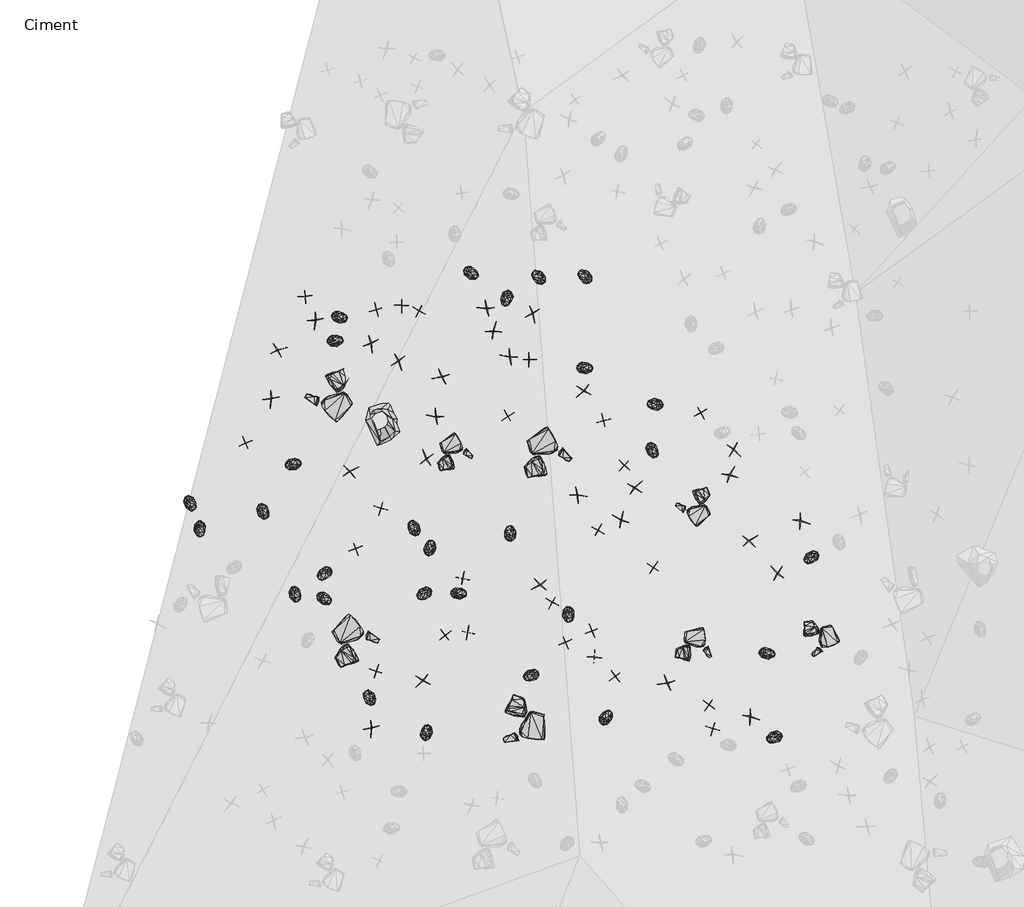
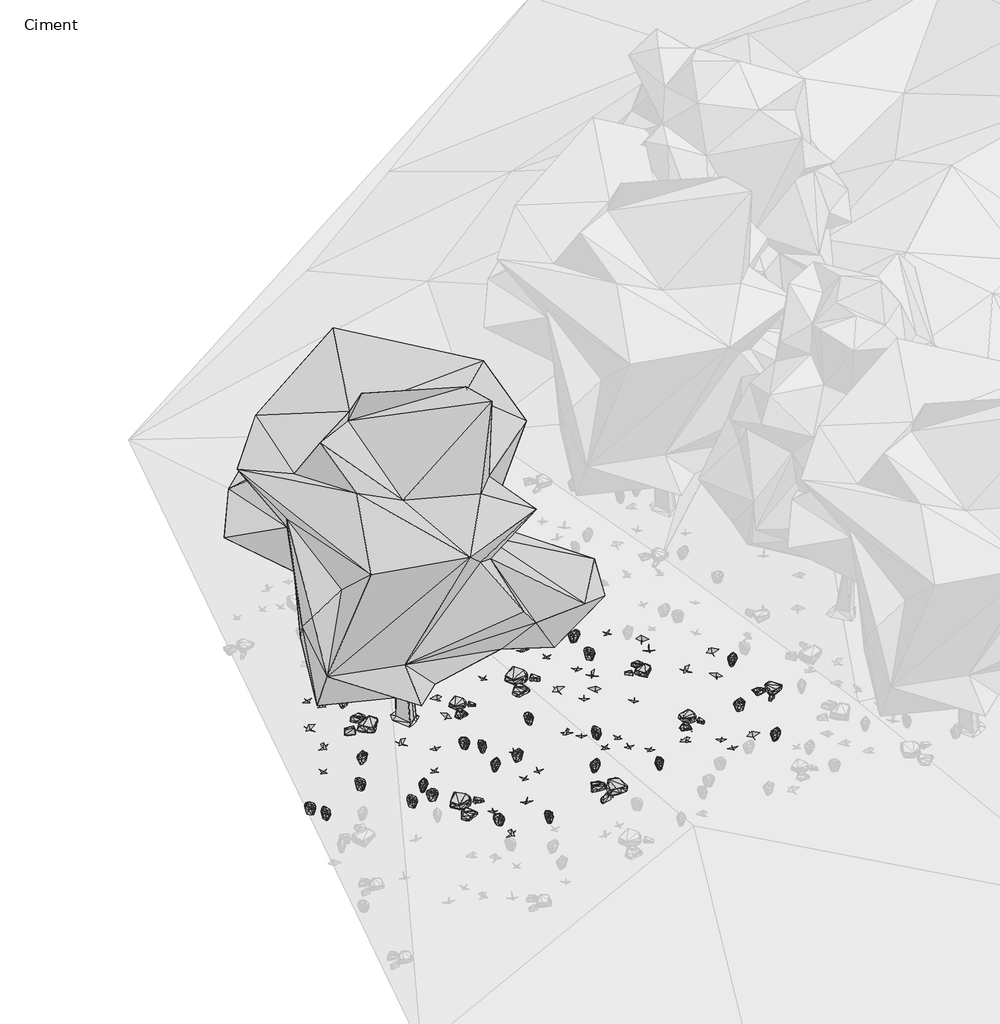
# One storey, part 7 of 30: 90 geographic elements.
"""IFC4 building model written with IfcOpenShell, lengths in millimetres."""

from ifc_helpers import new_model, si_unit, origin, place, context, project, spatial, transform, mapped, element, save
from components import enscape_assetdefinition_bush_025_fern_enscape_5718bf32, enscape_assetdefinition_bush_054_plant_09_version_2_enscape_7b546a12, enscape_assetdefinition_bush_062_plant_09_version_3_enscape_ccf8c8eb, enscape_assetdefinition_deciduous_tree_029_elm_enscape_e4c49baf, enscape_assetdefinition_stone_013_group_enscape_516da325, enscape_assetdefinition_stone_013_group_enscape_db9b3e91

model = new_model("IFC4")

# Units and contexts
model_context = context("Model", 3, world=origin())
ifc_project = project(units=[si_unit("LENGTHUNIT", "METRE", prefix="MILLI")], contexts=[model_context])

# Site, building, storey
site = spatial("IfcSite", under=ifc_project)
building = spatial("IfcBuilding", under=site)
storey = spatial("IfcBuildingStorey", under=building, Name="Ciment", Elevation=-1500.0)

# Geographic elements
placement = place(None, origin())
enscape_assetdefinition_bush_025_fern_enscape_shape = enscape_assetdefinition_bush_025_fern_enscape_5718bf32(model_context)
element("IfcGeographicElement", 1, ObjectType="Enscape AssetDefinition - Bush 025 Fern : Enscape AssetDefinition - Bush 025 Fern", at=placement, inside=storey, context=model_context, shape_type="MappedRepresentation", body=[
    mapped(enscape_assetdefinition_bush_025_fern_enscape_shape, transform((-23727.4951935, -7256.6299438, -2361.6156578), x_axis=(-0.5676788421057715, 0.8232501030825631, 0.0), y_axis=(-0.8232501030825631, -0.5676788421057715, 0.0), z_axis=(0.0, 0.0, 1.0))),
])
element("IfcGeographicElement", 2, ObjectType="Enscape AssetDefinition - Bush 025 Fern : Enscape AssetDefinition - Bush 025 Fern", at=placement, inside=storey, context=model_context, shape_type="MappedRepresentation", body=[
    mapped(enscape_assetdefinition_bush_025_fern_enscape_shape, transform((-25539.440155, -4105.9131622, -2671.3728905), x_axis=(0.5081683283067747, -0.8612577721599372, 0.0), y_axis=(0.8612577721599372, 0.5081683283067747, 0.0), z_axis=(0.0, 0.0, 1.0))),
])
element("IfcGeographicElement", 3, ObjectType="Enscape AssetDefinition - Bush 025 Fern : Enscape AssetDefinition - Bush 025 Fern", at=placement, inside=storey, context=model_context, shape_type="MappedRepresentation", body=[
    mapped(enscape_assetdefinition_bush_025_fern_enscape_shape, transform((-22751.8234253, -7855.2341461, -2261.7893219), x_axis=(0.12336331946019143, 0.9923615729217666, 0.0), y_axis=(-0.9923615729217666, 0.12336331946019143, 0.0), z_axis=(0.0, 0.0, 1.0))),
])
element("IfcGeographicElement", 4, ObjectType="Enscape AssetDefinition - Bush 025 Fern : Enscape AssetDefinition - Bush 025 Fern", at=placement, inside=storey, context=model_context, shape_type="MappedRepresentation", body=[
    mapped(enscape_assetdefinition_bush_025_fern_enscape_shape, transform((-22201.9767761, -5496.3622093, -2183.6323738), x_axis=(0.9965483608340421, 0.08301424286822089, 0.0), y_axis=(-0.08301424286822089, 0.9965483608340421, 0.0), z_axis=(0.0, 0.0, 1.0))),
])
element("IfcGeographicElement", 5, ObjectType="Enscape AssetDefinition - Bush 025 Fern : Enscape AssetDefinition - Bush 025 Fern", at=placement, inside=storey, context=model_context, shape_type="MappedRepresentation", body=[
    mapped(enscape_assetdefinition_bush_025_fern_enscape_shape, transform((-24301.6529083, -1194.8299408, -2549.8013496), x_axis=(0.9784877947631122, 0.20630471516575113, 0.0), y_axis=(-0.20630471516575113, 0.9784877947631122, 0.0), z_axis=(0.0, 0.0, 1.0))),
])
element("IfcGeographicElement", 6, ObjectType="Enscape AssetDefinition - Bush 025 Fern : Enscape AssetDefinition - Bush 025 Fern", at=placement, inside=storey, context=model_context, shape_type="MappedRepresentation", body=[
    mapped(enscape_assetdefinition_bush_025_fern_enscape_shape, transform((-21993.9994812, -45.6085205, -2117.0444489), x_axis=(0.8876537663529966, -0.4605114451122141, 0.0), y_axis=(0.4605114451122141, 0.8876537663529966, 0.0), z_axis=(0.0, 0.0, 1.0))),
])
element("IfcGeographicElement", 7, ObjectType="Enscape AssetDefinition - Bush 025 Fern : Enscape AssetDefinition - Bush 025 Fern", at=placement, inside=storey, context=model_context, shape_type="MappedRepresentation", body=[
    mapped(enscape_assetdefinition_bush_025_fern_enscape_shape, transform((-26618.7229156, -4401.2951851, -2924.323082), x_axis=(0.1692869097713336, -0.9855668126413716, 0.0), y_axis=(0.9855668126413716, 0.1692869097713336, 0.0), z_axis=(0.0, 0.0, 1.0))),
])
element("IfcGeographicElement", 8, ObjectType="Enscape AssetDefinition - Bush 025 Fern : Enscape AssetDefinition - Bush 025 Fern", at=placement, inside=storey, context=model_context, shape_type="MappedRepresentation", body=[
    mapped(enscape_assetdefinition_bush_025_fern_enscape_shape, transform((-20852.5466919, -97.984314, -1999.9998808), x_axis=(-0.8039432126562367, 0.5947060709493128, 0.0), y_axis=(-0.5947060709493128, -0.8039432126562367, 0.0), z_axis=(0.0, 0.0, 1.0))),
])
element("IfcGeographicElement", 9, ObjectType="Enscape AssetDefinition - Bush 025 Fern : Enscape AssetDefinition - Bush 025 Fern", at=placement, inside=storey, context=model_context, shape_type="MappedRepresentation", body=[
    mapped(enscape_assetdefinition_bush_025_fern_enscape_shape, transform((-24494.6460724, -5587.1810913, -2430.3712845), x_axis=(0.921809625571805, -0.387642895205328, 0.0), y_axis=(0.387642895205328, 0.921809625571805, 0.0), z_axis=(0.0, 0.0, 1.0))),
])
element("IfcGeographicElement", 10, ObjectType="Enscape AssetDefinition - Bush 025 Fern : Enscape AssetDefinition - Bush 025 Fern", at=placement, inside=storey, context=model_context, shape_type="MappedRepresentation", body=[
    mapped(enscape_assetdefinition_bush_025_fern_enscape_shape, transform((-21331.0127258, -4463.5009766, -2081.7899704), x_axis=(-0.1506289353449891, 0.9885903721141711, 0.0), y_axis=(-0.9885903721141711, -0.1506289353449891, 0.0), z_axis=(0.0, 0.0, 1.0))),
])
element("IfcGeographicElement", 11, ObjectType="Enscape AssetDefinition - Bush 025 Fern : Enscape AssetDefinition - Bush 025 Fern", at=placement, inside=storey, context=model_context, shape_type="MappedRepresentation", body=[
    mapped(enscape_assetdefinition_bush_025_fern_enscape_shape, transform((-20985.4869843, -6884.1018677, -2064.3763542), x_axis=(-0.90095990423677, -0.43390235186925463, 0.0), y_axis=(0.43390235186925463, -0.90095990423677, 0.0), z_axis=(0.0, 0.0, 1.0))),
])
element("IfcGeographicElement", 12, ObjectType="Enscape AssetDefinition - Bush 025 Fern : Enscape AssetDefinition - Bush 025 Fern", at=placement, inside=storey, context=model_context, shape_type="MappedRepresentation", body=[
    mapped(enscape_assetdefinition_bush_025_fern_enscape_shape, transform((-22693.0561066, -4710.7243538, -2229.9437523), x_axis=(0.17815446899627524, 0.9840025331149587, 0.0), y_axis=(-0.9840025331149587, 0.17815446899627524, 0.0), z_axis=(0.0, 0.0, 1.0))),
])
element("IfcGeographicElement", 13, ObjectType="Enscape AssetDefinition - Bush 025 Fern : Enscape AssetDefinition - Bush 025 Fern", at=placement, inside=storey, context=model_context, shape_type="MappedRepresentation", body=[
    mapped(enscape_assetdefinition_bush_025_fern_enscape_shape, transform((-24993.7591553, -5515.2416229, -2483.341217), x_axis=(0.4139063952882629, -0.9103194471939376, 0.0), y_axis=(0.9103194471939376, 0.4139063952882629, 0.0), z_axis=(0.0, 0.0, 1.0))),
])
element("IfcGeographicElement", 14, ObjectType="Enscape AssetDefinition - Bush 025 Fern : Enscape AssetDefinition - Bush 025 Fern", at=placement, inside=storey, context=model_context, shape_type="MappedRepresentation", body=[
    mapped(enscape_assetdefinition_bush_025_fern_enscape_shape, transform((-24230.1330566, -794.8588729, -2557.9595566), x_axis=(0.9918220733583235, -0.1276282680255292, 0.0), y_axis=(0.1276282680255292, 0.9918220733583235, 0.0), z_axis=(0.0, 0.0, 1.0))),
])
element("IfcGeographicElement", 15, ObjectType="Enscape AssetDefinition - Bush 025 Fern : Enscape AssetDefinition - Bush 025 Fern", at=placement, inside=storey, context=model_context, shape_type="MappedRepresentation", body=[
    mapped(enscape_assetdefinition_bush_025_fern_enscape_shape, transform((-22803.106308, -5495.7466125, -2248.1279373), x_axis=(-0.7612268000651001, -0.6484857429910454, 0.0), y_axis=(0.6484857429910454, -0.7612268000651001, 0.0), z_axis=(0.0, 0.0, 1.0))),
])
element("IfcGeographicElement", 16, ObjectType="Enscape AssetDefinition - Bush 025 Fern : Enscape AssetDefinition - Bush 025 Fern", at=placement, inside=storey, context=model_context, shape_type="MappedRepresentation", body=[
    mapped(enscape_assetdefinition_bush_025_fern_enscape_shape, transform((-20057.4150085, -1658.0562592, -1999.9998808), x_axis=(0.9968236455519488, 0.07964056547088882, 0.0), y_axis=(-0.07964056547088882, 0.9968236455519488, 0.0), z_axis=(0.0, 0.0, 1.0))),
])
element("IfcGeographicElement", 17, ObjectType="Enscape AssetDefinition - Bush 025 Fern : Enscape AssetDefinition - Bush 025 Fern", at=placement, inside=storey, context=model_context, shape_type="MappedRepresentation", body=[
    mapped(enscape_assetdefinition_bush_025_fern_enscape_shape, transform((-26777.5974274, -3967.2336578, -2992.8431511), x_axis=(0.5974345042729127, -0.8019177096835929, 0.0), y_axis=(0.8019177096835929, 0.5974345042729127, 0.0), z_axis=(0.0, 0.0, 1.0))),
])
element("IfcGeographicElement", 18, ObjectType="Enscape AssetDefinition - Bush 025 Fern : Enscape AssetDefinition - Bush 025 Fern", at=placement, inside=storey, context=model_context, shape_type="MappedRepresentation", body=[
    mapped(enscape_assetdefinition_bush_025_fern_enscape_shape, transform((-19695.4116821, -7599.7009277, -1999.9998808), x_axis=(0.46748191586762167, 0.8840026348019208, 0.0), y_axis=(-0.8840026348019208, 0.46748191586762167, 0.0), z_axis=(0.0, 0.0, 1.0))),
])
element("IfcGeographicElement", 19, ObjectType="Enscape AssetDefinition - Bush 025 Fern : Enscape AssetDefinition - Bush 025 Fern", at=placement, inside=storey, context=model_context, shape_type="MappedRepresentation", body=[
    mapped(enscape_assetdefinition_bush_025_fern_enscape_shape, transform((-21397.8786469, -472.7897346, -2056.5516949), x_axis=(-0.16721915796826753, -0.9859197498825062, 0.0), y_axis=(0.9859197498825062, -0.16721915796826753, 0.0), z_axis=(0.0, 0.0, 1.0))),
])
element("IfcGeographicElement", 20, ObjectType="Enscape AssetDefinition - Bush 025 Fern : Enscape AssetDefinition - Bush 025 Fern", at=placement, inside=storey, context=model_context, shape_type="MappedRepresentation", body=[
    mapped(enscape_assetdefinition_bush_025_fern_enscape_shape, transform((-16956.2988281, -6516.5977478, -2000.0), x_axis=(0.9999566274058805, 0.009313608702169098, 0.0), y_axis=(-0.009313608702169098, 0.9999566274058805, 0.0), z_axis=(0.0, 0.0, 1.0))),
])
element("IfcGeographicElement", 21, ObjectType="Enscape AssetDefinition - Bush 025 Fern : Enscape AssetDefinition - Bush 025 Fern", at=placement, inside=storey, context=model_context, shape_type="MappedRepresentation", body=[
    mapped(enscape_assetdefinition_bush_025_fern_enscape_shape, transform((-22967.8230286, -4371.4752197, -2256.6702366), x_axis=(-0.525916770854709, 0.8505360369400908, 0.0), y_axis=(-0.8505360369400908, -0.525916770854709, 0.0), z_axis=(0.0, 0.0, 1.0))),
])
element("IfcGeographicElement", 22, ObjectType="Enscape AssetDefinition - Bush 025 Fern : Enscape AssetDefinition - Bush 025 Fern", at=placement, inside=storey, context=model_context, shape_type="MappedRepresentation", body=[
    mapped(enscape_assetdefinition_bush_025_fern_enscape_shape, transform((-18873.3158112, -2269.2584991, -1999.9998808), x_axis=(-0.9999862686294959, -0.005240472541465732, 0.0), y_axis=(0.005240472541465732, -0.9999862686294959, 0.0), z_axis=(0.0, 0.0, 1.0))),
])
element("IfcGeographicElement", 23, ObjectType="Enscape AssetDefinition - Bush 025 Fern : Enscape AssetDefinition - Bush 025 Fern", at=placement, inside=storey, context=model_context, shape_type="MappedRepresentation", body=[
    mapped(enscape_assetdefinition_bush_025_fern_enscape_shape, transform((-18914.6385193, -3063.6746883, -1999.9998808), x_axis=(0.5406129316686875, -0.8412714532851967, 0.0), y_axis=(0.8412714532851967, 0.5406129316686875, 0.0), z_axis=(0.0, 0.0, 1.0))),
])
element("IfcGeographicElement", 24, ObjectType="Enscape AssetDefinition - Bush 025 Fern : Enscape AssetDefinition - Bush 025 Fern", at=placement, inside=storey, context=model_context, shape_type="MappedRepresentation", body=[
    mapped(enscape_assetdefinition_bush_025_fern_enscape_shape, transform((-16848.3390808, -7939.5976067, -2000.0), x_axis=(-0.8730230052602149, -0.4876790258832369, 0.0), y_axis=(0.4876790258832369, -0.8730230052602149, 0.0), z_axis=(0.0, 0.0, 1.0))),
])
element("IfcGeographicElement", 25, ObjectType="Enscape AssetDefinition - Bush 025 Fern : Enscape AssetDefinition - Bush 025 Fern", at=placement, inside=storey, context=model_context, shape_type="MappedRepresentation", body=[
    mapped(enscape_assetdefinition_bush_025_fern_enscape_shape, transform((-24500.4806519, -5155.7617188, -2427.4926186), x_axis=(-0.6645421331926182, -0.7472507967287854, 0.0), y_axis=(0.7472507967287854, -0.6645421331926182, 0.0), z_axis=(0.0, 0.0, 1.0))),
])
element("IfcGeographicElement", 26, ObjectType="Enscape AssetDefinition - Bush 025 Fern : Enscape AssetDefinition - Bush 025 Fern", at=placement, inside=storey, context=model_context, shape_type="MappedRepresentation", body=[
    mapped(enscape_assetdefinition_bush_025_fern_enscape_shape, transform((-20064.5179749, -89.2429352, -1999.9998808), x_axis=(-0.8169794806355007, 0.576666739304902, 0.0), y_axis=(-0.576666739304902, -0.8169794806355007, 0.0), z_axis=(0.0, 0.0, 1.0))),
])
element("IfcGeographicElement", 27, ObjectType="Enscape AssetDefinition - Bush 025 Fern : Enscape AssetDefinition - Bush 025 Fern", at=placement, inside=storey, context=model_context, shape_type="MappedRepresentation", body=[
    mapped(enscape_assetdefinition_bush_025_fern_enscape_shape, transform((-25015.3369904, -3294.5594788, -2592.2985077), x_axis=(0.931424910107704, 0.36393356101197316, 0.0), y_axis=(-0.36393356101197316, 0.931424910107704, 0.0), z_axis=(0.0, 0.0, 1.0))),
])
element("IfcGeographicElement", 28, ObjectType="Enscape AssetDefinition - Bush 025 Fern : Enscape AssetDefinition - Bush 025 Fern", at=placement, inside=storey, context=model_context, shape_type="MappedRepresentation", body=[
    mapped(enscape_assetdefinition_bush_025_fern_enscape_shape, transform((-20345.4418182, -5856.7733765, -1999.9998808), x_axis=(0.1793233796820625, -0.9837901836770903, 0.0), y_axis=(0.9837901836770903, 0.1793233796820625, 0.0), z_axis=(0.0, 0.0, 1.0))),
])
element("IfcGeographicElement", 29, ObjectType="Enscape AssetDefinition - Bush 025 Fern : Enscape AssetDefinition - Bush 025 Fern", at=placement, inside=storey, context=model_context, shape_type="MappedRepresentation", body=[
    mapped(enscape_assetdefinition_bush_025_fern_enscape_shape, transform((-16217.8859711, -4879.6482086, -2000.0), x_axis=(-0.7441916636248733, -0.6679661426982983, 0.0), y_axis=(0.6679661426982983, -0.7441916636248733, 0.0), z_axis=(0.0, 0.0, 1.0))),
])
enscape_assetdefinition_bush_054_plant_09_version_2_enscape_shape = enscape_assetdefinition_bush_054_plant_09_version_2_enscape_7b546a12(model_context)
element("IfcGeographicElement", 30, ObjectType="Enscape AssetDefinition - Bush 054 Plant 09, Version 2 : Enscape AssetDefinition - Bush 054 Plant 09, Version 2", at=placement, inside=storey, context=model_context, shape_type="MappedRepresentation", body=[
    mapped(enscape_assetdefinition_bush_054_plant_09_version_2_enscape_shape, transform((-19942.5029755, -6135.2190971, -1999.9998808), x_axis=(0.9075554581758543, 0.41993224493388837, 0.0), y_axis=(-0.41993224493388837, 0.9075554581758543, 0.0), z_axis=(0.0, 0.0, 1.0))),
])
element("IfcGeographicElement", 31, ObjectType="Enscape AssetDefinition - Bush 054 Plant 09, Version 2 : Enscape AssetDefinition - Bush 054 Plant 09, Version 2", at=placement, inside=storey, context=model_context, shape_type="MappedRepresentation", body=[
    mapped(enscape_assetdefinition_bush_054_plant_09_version_2_enscape_shape, transform((-23612.9741669, -664.4630432, -2410.7952118), x_axis=(0.9478178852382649, 0.3188122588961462, 0.0), y_axis=(-0.3188122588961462, 0.9478178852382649, 0.0), z_axis=(0.0, 0.0, 1.0))),
])
element("IfcGeographicElement", 32, ObjectType="Enscape AssetDefinition - Bush 054 Plant 09, Version 2 : Enscape AssetDefinition - Bush 054 Plant 09, Version 2", at=placement, inside=storey, context=model_context, shape_type="MappedRepresentation", body=[
    mapped(enscape_assetdefinition_bush_054_plant_09_version_2_enscape_shape, transform((-17879.8046112, -7798.1071472, -2000.0), x_axis=(0.22923642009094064, 0.9733707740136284, 0.0), y_axis=(-0.9733707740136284, 0.22923642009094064, 0.0), z_axis=(0.0, 0.0, 1.0))),
])
element("IfcGeographicElement", 33, ObjectType="Enscape AssetDefinition - Bush 054 Plant 09, Version 2 : Enscape AssetDefinition - Bush 054 Plant 09, Version 2", at=placement, inside=storey, context=model_context, shape_type="MappedRepresentation", body=[
    mapped(enscape_assetdefinition_bush_054_plant_09_version_2_enscape_shape, transform((-23174.4670868, -592.2470093, -2304.8915863), x_axis=(-0.041993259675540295, 0.9991178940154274, 0.0), y_axis=(-0.9991178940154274, -0.041993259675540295, 0.0), z_axis=(0.0, 0.0, 1.0))),
])
element("IfcGeographicElement", 34, ObjectType="Enscape AssetDefinition - Bush 054 Plant 09, Version 2 : Enscape AssetDefinition - Bush 054 Plant 09, Version 2", at=placement, inside=storey, context=model_context, shape_type="MappedRepresentation", body=[
    mapped(enscape_assetdefinition_bush_054_plant_09_version_2_enscape_shape, transform((-23958.2633972, -4731.5673828, -2365.8685684), x_axis=(-0.40774271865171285, 0.9130968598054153, 0.0), y_axis=(-0.9130968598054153, -0.40774271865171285, 0.0), z_axis=(0.0, 0.0, 1.0))),
])
element("IfcGeographicElement", 35, ObjectType="Enscape AssetDefinition - Bush 054 Plant 09, Version 2 : Enscape AssetDefinition - Bush 054 Plant 09, Version 2", at=placement, inside=storey, context=model_context, shape_type="MappedRepresentation", body=[
    mapped(enscape_assetdefinition_bush_054_plant_09_version_2_enscape_shape, transform((-22880.5847168, -684.8697662, -2224.6792316), x_axis=(0.42837541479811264, 0.9036008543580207, 0.0), y_axis=(-0.9036008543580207, 0.42837541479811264, 0.0), z_axis=(0.0, 0.0, 1.0))),
])
element("IfcGeographicElement", 36, ObjectType="Enscape AssetDefinition - Bush 054 Plant 09, Version 2 : Enscape AssetDefinition - Bush 054 Plant 09, Version 2", at=placement, inside=storey, context=model_context, shape_type="MappedRepresentation", body=[
    mapped(enscape_assetdefinition_bush_054_plant_09_version_2_enscape_shape, transform((-19546.5126038, -6908.3862305, -1999.9998808), x_axis=(0.7738083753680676, 0.6334197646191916, 0.0), y_axis=(-0.6334197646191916, 0.7738083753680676, 0.0), z_axis=(0.0, 0.0, 1.0))),
])
element("IfcGeographicElement", 37, ObjectType="Enscape AssetDefinition - Bush 054 Plant 09, Version 2 : Enscape AssetDefinition - Bush 054 Plant 09, Version 2", at=placement, inside=storey, context=model_context, shape_type="MappedRepresentation", body=[
    mapped(enscape_assetdefinition_bush_054_plant_09_version_2_enscape_shape, transform((-20387.3138428, -6324.4304657, -1999.9998808), x_axis=(-0.4287374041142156, 0.9034291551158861, 0.0), y_axis=(-0.9034291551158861, -0.4287374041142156, 0.0), z_axis=(0.0, 0.0, 1.0))),
])
element("IfcGeographicElement", 38, ObjectType="Enscape AssetDefinition - Bush 054 Plant 09, Version 2 : Enscape AssetDefinition - Bush 054 Plant 09, Version 2", at=placement, inside=storey, context=model_context, shape_type="MappedRepresentation", body=[
    mapped(enscape_assetdefinition_bush_054_plant_09_version_2_enscape_shape, transform((-18085.1287842, -2416.5630341, -1999.9998808), x_axis=(-0.547497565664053, 0.8368072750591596, 0.0), y_axis=(-0.8368072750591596, -0.547497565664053, 0.0), z_axis=(0.0, 0.0, 1.0))),
])
element("IfcGeographicElement", 39, ObjectType="Enscape AssetDefinition - Bush 054 Plant 09, Version 2 : Enscape AssetDefinition - Bush 054 Plant 09, Version 2", at=placement, inside=storey, context=model_context, shape_type="MappedRepresentation", body=[
    mapped(enscape_assetdefinition_bush_054_plant_09_version_2_enscape_shape, transform((-23529.3750763, -4045.1469421, -2314.2738342), x_axis=(0.22313458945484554, 0.9747876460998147, 0.0), y_axis=(-0.9747876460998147, 0.22313458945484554, 0.0), z_axis=(0.0, 0.0, 1.0))),
])
element("IfcGeographicElement", 40, ObjectType="Enscape AssetDefinition - Bush 054 Plant 09, Version 2 : Enscape AssetDefinition - Bush 054 Plant 09, Version 2", at=placement, inside=storey, context=model_context, shape_type="MappedRepresentation", body=[
    mapped(enscape_assetdefinition_bush_054_plant_09_version_2_enscape_shape, transform((-22051.0463715, -6154.7465324, -2172.7850437), x_axis=(-0.9892456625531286, 0.14626352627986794, 0.0), y_axis=(-0.14626352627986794, -0.9892456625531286, 0.0), z_axis=(0.0, 0.0, 1.0))),
])
element("IfcGeographicElement", 41, ObjectType="Enscape AssetDefinition - Bush 054 Plant 09, Version 2 : Enscape AssetDefinition - Bush 054 Plant 09, Version 2", at=placement, inside=storey, context=model_context, shape_type="MappedRepresentation", body=[
    mapped(enscape_assetdefinition_bush_054_plant_09_version_2_enscape_shape, transform((-17947.9427338, -7392.5647736, -2000.0), x_axis=(0.5418245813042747, 0.8404915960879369, 0.0), y_axis=(-0.8404915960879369, 0.5418245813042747, 0.0), z_axis=(0.0, 0.0, 1.0))),
])
element("IfcGeographicElement", 42, ObjectType="Enscape AssetDefinition - Bush 054 Plant 09, Version 2 : Enscape AssetDefinition - Bush 054 Plant 09, Version 2", at=placement, inside=storey, context=model_context, shape_type="MappedRepresentation", body=[
    mapped(enscape_assetdefinition_bush_054_plant_09_version_2_enscape_shape, transform((-21007.5855255, -1505.0201416, -2023.0569839), x_axis=(-0.9990019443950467, -0.04466671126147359, 0.0), y_axis=(0.04466671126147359, -0.9990019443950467, 0.0), z_axis=(0.0, 0.0, 1.0))),
])
element("IfcGeographicElement", 43, ObjectType="Enscape AssetDefinition - Bush 054 Plant 09, Version 2 : Enscape AssetDefinition - Bush 054 Plant 09, Version 2", at=placement, inside=storey, context=model_context, shape_type="MappedRepresentation", body=[
    mapped(enscape_assetdefinition_bush_054_plant_09_version_2_enscape_shape, transform((-23615.7073975, -6817.7471161, -2346.0569382), x_axis=(0.9653508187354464, -0.26095554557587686, 0.0), y_axis=(0.26095554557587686, 0.9653508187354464, 0.0), z_axis=(0.0, 0.0, 1.0))),
])
element("IfcGeographicElement", 44, ObjectType="Enscape AssetDefinition - Bush 054 Plant 09, Version 2 : Enscape AssetDefinition - Bush 054 Plant 09, Version 2", at=placement, inside=storey, context=model_context, shape_type="MappedRepresentation", body=[
    mapped(enscape_assetdefinition_bush_054_plant_09_version_2_enscape_shape, transform((-19840.5647278, -4411.0336304, -1999.9998808), x_axis=(-0.4511467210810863, -0.8924497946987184, 0.0), y_axis=(0.8924497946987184, -0.4511467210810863, 0.0), z_axis=(0.0, 0.0, 1.0))),
])
element("IfcGeographicElement", 45, ObjectType="Enscape AssetDefinition - Bush 054 Plant 09, Version 2 : Enscape AssetDefinition - Bush 054 Plant 09, Version 2", at=placement, inside=storey, context=model_context, shape_type="MappedRepresentation", body=[
    mapped(enscape_assetdefinition_bush_054_plant_09_version_2_enscape_shape, transform((-20615.4022217, -5647.6840973, -2014.6241188), x_axis=(0.44653206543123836, 0.8947676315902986, 0.0), y_axis=(-0.8947676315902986, 0.44653206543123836, 0.0), z_axis=(0.0, 0.0, 1.0))),
])
element("IfcGeographicElement", 46, ObjectType="Enscape AssetDefinition - Bush 054 Plant 09, Version 2 : Enscape AssetDefinition - Bush 054 Plant 09, Version 2", at=placement, inside=storey, context=model_context, shape_type="MappedRepresentation", body=[
    mapped(enscape_assetdefinition_bush_054_plant_09_version_2_enscape_shape, transform((-22145.4734802, -5234.0965271, -2175.4395962), x_axis=(-0.13628983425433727, -0.9906690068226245, 0.0), y_axis=(0.9906690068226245, -0.13628983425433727, 0.0), z_axis=(0.0, 0.0, 1.0))),
])
element("IfcGeographicElement", 47, ObjectType="Enscape AssetDefinition - Bush 054 Plant 09, Version 2 : Enscape AssetDefinition - Bush 054 Plant 09, Version 2", at=placement, inside=storey, context=model_context, shape_type="MappedRepresentation", body=[
    mapped(enscape_assetdefinition_bush_054_plant_09_version_2_enscape_shape, transform((-19749.7348785, -2548.8109589, -1999.9998808), x_axis=(0.2976490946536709, -0.9546753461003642, 0.0), y_axis=(0.9546753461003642, 0.2976490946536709, 0.0), z_axis=(0.0, 0.0, 1.0))),
])
element("IfcGeographicElement", 48, ObjectType="Enscape AssetDefinition - Bush 054 Plant 09, Version 2 : Enscape AssetDefinition - Bush 054 Plant 09, Version 2", at=placement, inside=storey, context=model_context, shape_type="MappedRepresentation", body=[
    mapped(enscape_assetdefinition_bush_054_plant_09_version_2_enscape_shape, transform((-24816.8869019, -434.3643188, -2729.6147346), x_axis=(-0.13914703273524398, 0.9902717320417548, 0.0), y_axis=(-0.9902717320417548, -0.13914703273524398, 0.0), z_axis=(0.0, 0.0, 1.0))),
])
element("IfcGeographicElement", 49, ObjectType="Enscape AssetDefinition - Bush 054 Plant 09, Version 2 : Enscape AssetDefinition - Bush 054 Plant 09, Version 2", at=placement, inside=storey, context=model_context, shape_type="MappedRepresentation", body=[
    mapped(enscape_assetdefinition_bush_054_plant_09_version_2_enscape_shape, transform((-25842.4930573, -2930.8223724, -2824.8195648), x_axis=(0.4528384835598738, -0.8915925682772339, 0.0), y_axis=(0.8915925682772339, 0.4528384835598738, 0.0), z_axis=(0.0, 0.0, 1.0))),
])
element("IfcGeographicElement", 50, ObjectType="Enscape AssetDefinition - Bush 054 Plant 09, Version 2 : Enscape AssetDefinition - Bush 054 Plant 09, Version 2", at=placement, inside=storey, context=model_context, shape_type="MappedRepresentation", body=[
    mapped(enscape_assetdefinition_bush_054_plant_09_version_2_enscape_shape, transform((-19904.3235779, -6571.647644, -1999.9998808), x_axis=(-0.017848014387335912, -0.9998407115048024, 0.0), y_axis=(0.9998407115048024, -0.017848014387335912, 0.0), z_axis=(0.0, 0.0, 1.0))),
])
element("IfcGeographicElement", 51, ObjectType="Enscape AssetDefinition - Bush 054 Plant 09, Version 2 : Enscape AssetDefinition - Bush 054 Plant 09, Version 2", at=placement, inside=storey, context=model_context, shape_type="MappedRepresentation", body=[
    mapped(enscape_assetdefinition_bush_054_plant_09_version_2_enscape_shape, transform((-19390.1824951, -3316.4672852, -1999.9998808), x_axis=(0.6346919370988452, 0.7727652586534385, 0.0), y_axis=(-0.7727652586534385, 0.6346919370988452, 0.0), z_axis=(0.0, 0.0, 1.0))),
])
element("IfcGeographicElement", 52, ObjectType="Enscape AssetDefinition - Bush 054 Plant 09, Version 2 : Enscape AssetDefinition - Bush 054 Plant 09, Version 2", at=placement, inside=storey, context=model_context, shape_type="MappedRepresentation", body=[
    mapped(enscape_assetdefinition_bush_054_plant_09_version_2_enscape_shape, transform((-21376.8196106, -2477.2090912, -2070.571661), x_axis=(0.5736875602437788, -0.8190742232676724, 0.0), y_axis=(0.8190742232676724, 0.5736875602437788, 0.0), z_axis=(0.0, 0.0, 1.0))),
])
element("IfcGeographicElement", 53, ObjectType="Enscape AssetDefinition - Bush 054 Plant 09, Version 2 : Enscape AssetDefinition - Bush 054 Plant 09, Version 2", at=placement, inside=storey, context=model_context, shape_type="MappedRepresentation", body=[
    mapped(enscape_assetdefinition_bush_054_plant_09_version_2_enscape_shape, transform((-18899.5933533, -5051.6414642, -1999.9998808), x_axis=(0.859127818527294, -0.5117610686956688, 0.0), y_axis=(0.5117610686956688, 0.859127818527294, 0.0), z_axis=(0.0, 0.0, 1.0))),
])
element("IfcGeographicElement", 54, ObjectType="Enscape AssetDefinition - Bush 054 Plant 09, Version 2 : Enscape AssetDefinition - Bush 054 Plant 09, Version 2", at=placement, inside=storey, context=model_context, shape_type="MappedRepresentation", body=[
    mapped(enscape_assetdefinition_bush_054_plant_09_version_2_enscape_shape, transform((-22445.2400208, -6206.0985565, -2215.4989243), x_axis=(0.6462608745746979, -0.7631165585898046, 0.0), y_axis=(0.7631165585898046, 0.6462608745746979, 0.0), z_axis=(0.0, 0.0, 1.0))),
])
enscape_assetdefinition_bush_062_plant_09_version_3_enscape_shape = enscape_assetdefinition_bush_062_plant_09_version_3_enscape_ccf8c8eb(model_context)
element("IfcGeographicElement", 55, ObjectType="Enscape AssetDefinition - Bush 062 Plant 09, Version 3 : Enscape AssetDefinition - Bush 062 Plant 09, Version 3", at=placement, inside=storey, context=model_context, shape_type="MappedRepresentation", body=[
    mapped(enscape_assetdefinition_bush_062_plant_09_version_3_enscape_shape, transform((-23698.2536316, -1243.0782318, -2394.4034576), x_axis=(-0.8706152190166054, -0.49196457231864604, 0.0), y_axis=(0.49196457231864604, -0.8706152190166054, 0.0), z_axis=(0.0, 0.0, 1.0))),
])
element("IfcGeographicElement", 56, ObjectType="Enscape AssetDefinition - Bush 062 Plant 09, Version 3 : Enscape AssetDefinition - Bush 062 Plant 09, Version 3", at=placement, inside=storey, context=model_context, shape_type="MappedRepresentation", body=[
    mapped(enscape_assetdefinition_bush_062_plant_09_version_3_enscape_shape, transform((-21351.7532349, -1465.1813507, -2059.6623421), x_axis=(-0.20389773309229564, 0.9789921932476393, 0.0), y_axis=(-0.9789921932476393, -0.20389773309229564, 0.0), z_axis=(0.0, 0.0, 1.0))),
])
element("IfcGeographicElement", 57, ObjectType="Enscape AssetDefinition - Bush 062 Plant 09, Version 3 : Enscape AssetDefinition - Bush 062 Plant 09, Version 3", at=placement, inside=storey, context=model_context, shape_type="MappedRepresentation", body=[
    mapped(enscape_assetdefinition_bush_062_plant_09_version_3_enscape_shape, transform((-20087.8047943, -2050.7316589, -1999.9998808), x_axis=(-0.9065115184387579, 0.4221810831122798, 0.0), y_axis=(-0.4221810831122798, -0.9065115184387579, 0.0), z_axis=(0.0, 0.0, 1.0))),
])
element("IfcGeographicElement", 58, ObjectType="Enscape AssetDefinition - Bush 062 Plant 09, Version 3 : Enscape AssetDefinition - Bush 062 Plant 09, Version 3", at=placement, inside=storey, context=model_context, shape_type="MappedRepresentation", body=[
    mapped(enscape_assetdefinition_bush_062_plant_09_version_3_enscape_shape, transform((-22508.764267, -1808.9655638, -2186.6006851), x_axis=(-0.5220759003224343, 0.8528990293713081, 0.0), y_axis=(-0.8528990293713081, -0.5220759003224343, 0.0), z_axis=(0.0, 0.0, 1.0))),
])
element("IfcGeographicElement", 59, ObjectType="Enscape AssetDefinition - Bush 062 Plant 09, Version 3 : Enscape AssetDefinition - Bush 062 Plant 09, Version 3", at=placement, inside=storey, context=model_context, shape_type="MappedRepresentation", body=[
    mapped(enscape_assetdefinition_bush_062_plant_09_version_3_enscape_shape, transform((-22762.0773315, -3188.7931824, -2224.9879837), x_axis=(0.721246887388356, 0.6926780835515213, 0.0), y_axis=(-0.6926780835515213, 0.721246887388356, 0.0), z_axis=(0.0, 0.0, 1.0))),
])
element("IfcGeographicElement", 60, ObjectType="Enscape AssetDefinition - Bush 062 Plant 09, Version 3 : Enscape AssetDefinition - Bush 062 Plant 09, Version 3", at=placement, inside=storey, context=model_context, shape_type="MappedRepresentation", body=[
    mapped(enscape_assetdefinition_bush_062_plant_09_version_3_enscape_shape, transform((-25396.3623047, -2185.7318878, -2761.0754967), x_axis=(-0.9636626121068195, -0.2671223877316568, 0.0), y_axis=(0.2671223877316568, -0.9636626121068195, 0.0), z_axis=(0.0, 0.0, 1.0))),
])
element("IfcGeographicElement", 61, ObjectType="Enscape AssetDefinition - Bush 062 Plant 09, Version 3 : Enscape AssetDefinition - Bush 062 Plant 09, Version 3", at=placement, inside=storey, context=model_context, shape_type="MappedRepresentation", body=[
    mapped(enscape_assetdefinition_bush_062_plant_09_version_3_enscape_shape, transform((-24053.7757874, -3405.7729244, -2365.3483391), x_axis=(0.7488430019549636, -0.6627474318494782, 0.0), y_axis=(0.6627474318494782, 0.7488430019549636, 0.0), z_axis=(0.0, 0.0, 1.0))),
])
element("IfcGeographicElement", 62, ObjectType="Enscape AssetDefinition - Bush 062 Plant 09, Version 3 : Enscape AssetDefinition - Bush 062 Plant 09, Version 3", at=placement, inside=storey, context=model_context, shape_type="MappedRepresentation", body=[
    mapped(enscape_assetdefinition_bush_062_plant_09_version_3_enscape_shape, transform((-21747.3659515, -640.7260895, -2095.4148769), x_axis=(-0.3041219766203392, 0.9526331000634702, 0.0), y_axis=(-0.9526331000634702, -0.3041219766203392, 0.0), z_axis=(0.0, 0.0, 1.0))),
])
element("IfcGeographicElement", 63, ObjectType="Enscape AssetDefinition - Bush 062 Plant 09, Version 3 : Enscape AssetDefinition - Bush 062 Plant 09, Version 3", at=placement, inside=storey, context=model_context, shape_type="MappedRepresentation", body=[
    mapped(enscape_assetdefinition_bush_062_plant_09_version_3_enscape_shape, transform((-17233.6578369, -7593.0094719, -2000.0), x_axis=(0.06661969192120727, -0.9977784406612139, 0.0), y_axis=(0.9977784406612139, 0.06661969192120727, 0.0), z_axis=(0.0, 0.0, 1.0))),
])
element("IfcGeographicElement", 64, ObjectType="Enscape AssetDefinition - Bush 062 Plant 09, Version 3 : Enscape AssetDefinition - Bush 062 Plant 09, Version 3", at=placement, inside=storey, context=model_context, shape_type="MappedRepresentation", body=[
    mapped(enscape_assetdefinition_bush_062_plant_09_version_3_enscape_shape, transform((-24643.4421539, -847.8794098, -2658.7638855), x_axis=(-0.9677847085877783, -0.25177918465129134, 0.0), y_axis=(0.25177918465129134, -0.9677847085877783, 0.0), z_axis=(0.0, 0.0, 1.0))),
])
element("IfcGeographicElement", 65, ObjectType="Enscape AssetDefinition - Bush 062 Plant 09, Version 3 : Enscape AssetDefinition - Bush 062 Plant 09, Version 3", at=placement, inside=storey, context=model_context, shape_type="MappedRepresentation", body=[
    mapped(enscape_assetdefinition_bush_062_plant_09_version_3_enscape_shape, transform((-22609.2910767, -2482.8777313, -2202.8608322), x_axis=(-0.24449717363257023, 0.9696500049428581, 0.0), y_axis=(-0.9696500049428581, -0.24449717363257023, 0.0), z_axis=(0.0, 0.0, 1.0))),
])
element("IfcGeographicElement", 66, ObjectType="Enscape AssetDefinition - Bush 062 Plant 09, Version 3 : Enscape AssetDefinition - Bush 062 Plant 09, Version 3", at=placement, inside=storey, context=model_context, shape_type="MappedRepresentation", body=[
    mapped(enscape_assetdefinition_bush_062_plant_09_version_3_enscape_shape, transform((-19205.827713, -3682.0755005, -1999.9998808), x_axis=(0.9092941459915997, -0.4161540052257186, 0.0), y_axis=(0.4161540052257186, 0.9092941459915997, 0.0), z_axis=(0.0, 0.0, 1.0))),
])
element("IfcGeographicElement", 67, ObjectType="Enscape AssetDefinition - Bush 062 Plant 09, Version 3 : Enscape AssetDefinition - Bush 062 Plant 09, Version 3", at=placement, inside=storey, context=model_context, shape_type="MappedRepresentation", body=[
    mapped(enscape_assetdefinition_bush_062_plant_09_version_3_enscape_shape, transform((-22825.3593445, -6985.6796265, -2262.6171112), x_axis=(-0.9136052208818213, 0.4066023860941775, 0.0), y_axis=(-0.4066023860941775, -0.9136052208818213, 0.0), z_axis=(0.0, 0.0, 1.0))),
])
element("IfcGeographicElement", 68, ObjectType="Enscape AssetDefinition - Bush 062 Plant 09, Version 3 : Enscape AssetDefinition - Bush 062 Plant 09, Version 3", at=placement, inside=storey, context=model_context, shape_type="MappedRepresentation", body=[
    mapped(enscape_assetdefinition_bush_062_plant_09_version_3_enscape_shape, transform((-17259.5119476, -4587.5110626, -2000.0), x_axis=(0.8080770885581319, -0.5890767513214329, 0.0), y_axis=(0.5890767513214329, 0.8080770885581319, 0.0), z_axis=(0.0, 0.0, 1.0))),
])
element("IfcGeographicElement", 69, ObjectType="Enscape AssetDefinition - Bush 062 Plant 09, Version 3 : Enscape AssetDefinition - Bush 062 Plant 09, Version 3", at=placement, inside=storey, context=model_context, shape_type="MappedRepresentation", body=[
    mapped(enscape_assetdefinition_bush_062_plant_09_version_3_enscape_shape, transform((-16791.2025452, -5141.7331696, -2000.0), x_axis=(0.42083389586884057, 0.9071377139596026, 0.0), y_axis=(-0.9071377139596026, 0.42083389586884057, 0.0), z_axis=(0.0, 0.0, 1.0))),
])
element("IfcGeographicElement", 70, ObjectType="Enscape AssetDefinition - Bush 062 Plant 09, Version 3 : Enscape AssetDefinition - Bush 062 Plant 09, Version 3", at=placement, inside=storey, context=model_context, shape_type="MappedRepresentation", body=[
    mapped(enscape_assetdefinition_bush_062_plant_09_version_3_enscape_shape, transform((-20944.6659088, -732.1605682, -2010.0286007), x_axis=(-0.8106613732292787, -0.5855152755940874, 0.0), y_axis=(0.5855152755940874, -0.8106613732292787, 0.0), z_axis=(0.0, 0.0, 1.0))),
])
element("IfcGeographicElement", 71, ObjectType="Enscape AssetDefinition - Bush 062 Plant 09, Version 3 : Enscape AssetDefinition - Bush 062 Plant 09, Version 3", at=placement, inside=storey, context=model_context, shape_type="MappedRepresentation", body=[
    mapped(enscape_assetdefinition_bush_062_plant_09_version_3_enscape_shape, transform((-20177.6733398, -3814.2278194, -1999.9998808), x_axis=(0.2550310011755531, -0.9669328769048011, 0.0), y_axis=(0.9669328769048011, 0.2550310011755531, 0.0), z_axis=(0.0, 0.0, 1.0))),
])
element("IfcGeographicElement", 72, ObjectType="Enscape AssetDefinition - Bush 062 Plant 09, Version 3 : Enscape AssetDefinition - Bush 062 Plant 09, Version 3", at=placement, inside=storey, context=model_context, shape_type="MappedRepresentation", body=[
    mapped(enscape_assetdefinition_bush_062_plant_09_version_3_enscape_shape, transform((-17520.6832886, -3048.2616425, -1999.9998808), x_axis=(-0.39988446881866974, -0.9165655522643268, 0.0), y_axis=(0.9165655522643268, -0.39988446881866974, 0.0), z_axis=(0.0, 0.0, 1.0))),
])
element("IfcGeographicElement", 73, ObjectType="Enscape AssetDefinition - Bush 062 Plant 09, Version 3 : Enscape AssetDefinition - Bush 062 Plant 09, Version 3", at=placement, inside=storey, context=model_context, shape_type="MappedRepresentation", body=[
    mapped(enscape_assetdefinition_bush_062_plant_09_version_3_enscape_shape, transform((-25277.5402069, -1344.3660736, -2786.2181664), x_axis=(0.6028250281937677, -0.7978734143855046, 0.0), y_axis=(0.7978734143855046, 0.6028250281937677, 0.0), z_axis=(0.0, 0.0, 1.0))),
])
element("IfcGeographicElement", 74, ObjectType="Enscape AssetDefinition - Bush 062 Plant 09, Version 3 : Enscape AssetDefinition - Bush 062 Plant 09, Version 3", at=placement, inside=storey, context=model_context, shape_type="MappedRepresentation", body=[
    mapped(enscape_assetdefinition_bush_062_plant_09_version_3_enscape_shape, transform((-20834.2208862, -5351.266861, -2035.6953144), x_axis=(-0.7836470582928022, 0.6212063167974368, 0.0), y_axis=(-0.6212063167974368, -0.7836470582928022, 0.0), z_axis=(0.0, 0.0, 1.0))),
])
element("IfcGeographicElement", 75, ObjectType="Enscape AssetDefinition - Bush 062 Plant 09, Version 3 : Enscape AssetDefinition - Bush 062 Plant 09, Version 3", at=placement, inside=storey, context=model_context, shape_type="MappedRepresentation", body=[
    mapped(enscape_assetdefinition_bush_062_plant_09_version_3_enscape_shape, transform((-19455.8696747, -4235.0883484, -1999.9998808), x_axis=(0.1111390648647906, 0.9938048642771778, 0.0), y_axis=(-0.9938048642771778, 0.1111390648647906, 0.0), z_axis=(0.0, 0.0, 1.0))),
])
element("IfcGeographicElement", 76, ObjectType="Enscape AssetDefinition - Bush 062 Plant 09, Version 3 : Enscape AssetDefinition - Bush 062 Plant 09, Version 3", at=placement, inside=storey, context=model_context, shape_type="MappedRepresentation", body=[
    mapped(enscape_assetdefinition_bush_062_plant_09_version_3_enscape_shape, transform((-21619.0185547, -1016.2314177, -2084.6931934), x_axis=(0.9970411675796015, 0.07686943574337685, 0.0), y_axis=(-0.07686943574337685, 0.9970411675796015, 0.0), z_axis=(0.0, 0.0, 1.0))),
])
element("IfcGeographicElement", 77, ObjectType="Enscape AssetDefinition - Bush 062 Plant 09, Version 3 : Enscape AssetDefinition - Bush 062 Plant 09, Version 3", at=placement, inside=storey, context=model_context, shape_type="MappedRepresentation", body=[
    mapped(enscape_assetdefinition_bush_062_plant_09_version_3_enscape_shape, transform((-23692.3503876, -7794.8589325, -2362.2164726), x_axis=(-0.9506530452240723, -0.3102560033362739, 0.0), y_axis=(0.3102560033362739, -0.9506530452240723, 0.0), z_axis=(0.0, 0.0, 1.0))),
])
element("IfcGeographicElement", 78, ObjectType="Enscape AssetDefinition - Bush 062 Plant 09, Version 3 : Enscape AssetDefinition - Bush 062 Plant 09, Version 3", at=placement, inside=storey, context=model_context, shape_type="MappedRepresentation", body=[
    mapped(enscape_assetdefinition_bush_062_plant_09_version_3_enscape_shape, transform((-18671.8482971, -7019.323349, -2000.0), x_axis=(-0.49748131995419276, 0.8674746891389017, 0.0), y_axis=(-0.8674746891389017, -0.49748131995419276, 0.0), z_axis=(0.0, 0.0, 1.0))),
])
element("IfcGeographicElement", 79, ObjectType="Enscape AssetDefinition - Bush 062 Plant 09, Version 3 : Enscape AssetDefinition - Bush 062 Plant 09, Version 3", at=placement, inside=storey, context=model_context, shape_type="MappedRepresentation", body=[
    mapped(enscape_assetdefinition_bush_062_plant_09_version_3_enscape_shape, transform((-23226.3278961, -1545.96138, -2261.4579201), x_axis=(-0.7505868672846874, -0.6607717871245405, 0.0), y_axis=(0.6607717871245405, -0.7505868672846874, 0.0), z_axis=(0.0, 0.0, 1.0))),
])
element("IfcGeographicElement", 80, ObjectType="Enscape AssetDefinition - Bush 062 Plant 09, Version 3 : Enscape AssetDefinition - Bush 062 Plant 09, Version 3", at=placement, inside=storey, context=model_context, shape_type="MappedRepresentation", body=[
    mapped(enscape_assetdefinition_bush_062_plant_09_version_3_enscape_shape, transform((-17591.627121, -3465.6715393, -1999.9998808), x_axis=(0.9937281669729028, -0.11182276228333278, 0.0), y_axis=(0.11182276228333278, 0.9937281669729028, 0.0), z_axis=(0.0, 0.0, 1.0))),
])
element("IfcGeographicElement", 81, ObjectType="Enscape AssetDefinition - Bush 062 Plant 09, Version 3 : Enscape AssetDefinition - Bush 062 Plant 09, Version 3", at=placement, inside=storey, context=model_context, shape_type="MappedRepresentation", body=[
    mapped(enscape_assetdefinition_bush_062_plant_09_version_3_enscape_shape, transform((-16380.7487488, -4258.8977814, -2000.0), x_axis=(0.09064573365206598, -0.9958832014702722, 0.0), y_axis=(0.9958832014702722, 0.09064573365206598, 0.0), z_axis=(0.0, 0.0, 1.0))),
])
enscape_assetdefinition_deciduous_tree_029_elm_enscape_shape = enscape_assetdefinition_deciduous_tree_029_elm_enscape_e4c49baf(model_context)
element("IfcGeographicElement", 82, ObjectType="Enscape AssetDefinition - Deciduous Tree 029 Elm : Enscape AssetDefinition - Deciduous Tree 029 Elm", at=placement, inside=storey, context=model_context, shape_type="MappedRepresentation", body=[
    mapped(enscape_assetdefinition_deciduous_tree_029_elm_enscape_shape, transform((-23507.30896, -2617.8874969, -2300.3120422), x_axis=(1.0, 0.0, 0.0), y_axis=(0.0, 1.0, 0.0), z_axis=(0.0, 0.0, 1.0))),
])
enscape_assetdefinition_stone_013_group_enscape_shape = enscape_assetdefinition_stone_013_group_enscape_516da325(model_context)
element("IfcGeographicElement", 83, ObjectType="Enscape AssetDefinition - Stone 013 Group : Enscape AssetDefinition - Stone 013 Group", at=placement, inside=storey, context=model_context, shape_type="MappedRepresentation", body=[
    mapped(enscape_assetdefinition_stone_013_group_enscape_shape, transform((-24404.0985107, -2129.076004, -2514.4417286), x_axis=(-0.7297951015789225, -0.6836659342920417, 0.0), y_axis=(0.6836659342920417, -0.7297951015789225, 0.0), z_axis=(0.0, 0.0, 1.0))),
])
element("IfcGeographicElement", 84, ObjectType="Enscape AssetDefinition - Stone 013 Group : Enscape AssetDefinition - Stone 013 Group", at=placement, inside=storey, context=model_context, shape_type="MappedRepresentation", body=[
    mapped(enscape_assetdefinition_stone_013_group_enscape_shape, transform((-23973.8922119, -6292.6807404, -2380.2247047), x_axis=(0.7444744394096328, 0.6676509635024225, 0.0), y_axis=(-0.6676509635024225, 0.7444744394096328, 0.0), z_axis=(0.0, 0.0, 1.0))),
])
element("IfcGeographicElement", 85, ObjectType="Enscape AssetDefinition - Stone 013 Group : Enscape AssetDefinition - Stone 013 Group", at=placement, inside=storey, context=model_context, shape_type="MappedRepresentation", body=[
    mapped(enscape_assetdefinition_stone_013_group_enscape_shape, transform((-21138.1416321, -7719.9687958, -2087.5453949), x_axis=(-0.07565296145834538, -0.9971342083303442, 0.0), y_axis=(0.9971342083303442, -0.07565296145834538, 0.0), z_axis=(0.0, 0.0, 1.0))),
])
element("IfcGeographicElement", 86, ObjectType="Enscape AssetDefinition - Stone 013 Group : Enscape AssetDefinition - Stone 013 Group", at=placement, inside=storey, context=model_context, shape_type="MappedRepresentation", body=[
    mapped(enscape_assetdefinition_stone_013_group_enscape_shape, transform((-20697.0367432, -3120.445013, -2002.856493), x_axis=(0.872392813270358, 0.4888054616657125, 0.0), y_axis=(-0.4888054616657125, 0.872392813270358, 0.0), z_axis=(0.0, 0.0, 1.0))),
])
enscape_assetdefinition_stone_013_group_enscape_2_shape = enscape_assetdefinition_stone_013_group_enscape_db9b3e91(model_context)
element("IfcGeographicElement", 87, ObjectType="Enscape AssetDefinition - Stone 013 Group : Enscape AssetDefinition - Stone 013 Group 2", at=placement, inside=storey, context=model_context, shape_type="MappedRepresentation", body=[
    mapped(enscape_assetdefinition_stone_013_group_enscape_2_shape, transform((-18206.6822052, -4009.9487305, -1999.9998808), x_axis=(-0.8075376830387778, -0.5898159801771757, 0.0), y_axis=(0.5898159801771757, -0.8075376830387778, 0.0), z_axis=(0.0, 0.0, 1.0))),
])
element("IfcGeographicElement", 88, ObjectType="Enscape AssetDefinition - Stone 013 Group : Enscape AssetDefinition - Stone 013 Group 2", at=placement, inside=storey, context=model_context, shape_type="MappedRepresentation", body=[
    mapped(enscape_assetdefinition_stone_013_group_enscape_2_shape, transform((-22270.7290649, -3103.105545, -2171.5712547), x_axis=(0.8678188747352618, 0.4968806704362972, 0.0), y_axis=(-0.4968806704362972, 0.8678188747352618, 0.0), z_axis=(0.0, 0.0, 1.0))),
])
element("IfcGeographicElement", 89, ObjectType="Enscape AssetDefinition - Stone 013 Group : Enscape AssetDefinition - Stone 013 Group 2", at=placement, inside=storey, context=model_context, shape_type="MappedRepresentation", body=[
    mapped(enscape_assetdefinition_stone_013_group_enscape_2_shape, transform((-18174.9973297, -6398.2067108, -2000.0), x_axis=(0.9903494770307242, 0.1385926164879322, 0.0), y_axis=(-0.1385926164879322, 0.9903494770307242, 0.0), z_axis=(0.0, 0.0, 1.0))),
])
element("IfcGeographicElement", 90, ObjectType="Enscape AssetDefinition - Stone 013 Group : Enscape AssetDefinition - Stone 013 Group 2", at=placement, inside=storey, context=model_context, shape_type="MappedRepresentation", body=[
    mapped(enscape_assetdefinition_stone_013_group_enscape_2_shape, transform((-16072.3400116, -6270.7328796, -2000.0), x_axis=(0.3671987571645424, -0.9301425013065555, 0.0), y_axis=(0.9301425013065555, 0.3671987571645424, 0.0), z_axis=(0.0, 0.0, 1.0))),
])

save(model, "model.ifc")
